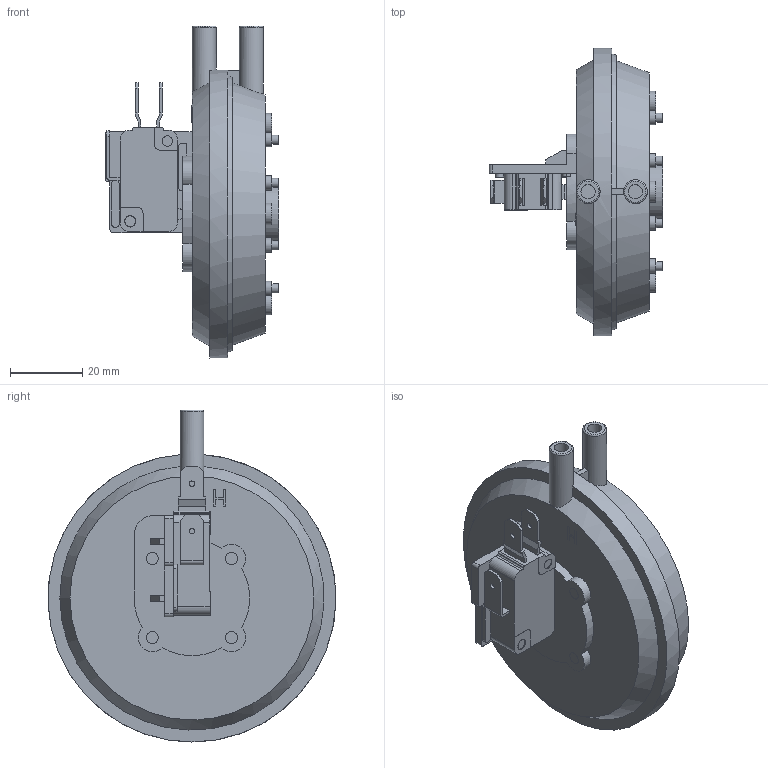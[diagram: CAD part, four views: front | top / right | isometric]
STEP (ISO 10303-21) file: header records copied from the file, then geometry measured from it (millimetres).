
FILE_DESCRIPTION((''),'2;1');
FILE_NAME('G:\DRAWINGS\SWITCH\INVENTOR DRAWINGS\GOLDTECH\PS-160.stp','2012-03-02T08:40:30',('dale'),(''),'Autodesk Inventor 2009','Autodesk Inventor 2009','');
FILE_SCHEMA(('AUTOMOTIVE_DESIGN { 1 0 10303 214 1 1 1 1 }'));
Length unit declared in the file: inch
Products named in the file (1): Part2
Bounding box: 48.13 x 79.73 x 91.95 mm (x, y, z)
Volume: 94184 mm3; surface area: 20686.9 mm2
Topology: 2 solids, 2 shells, 324 faces, 917 edges, 644 vertices
Faces by surface type: plane 191, cylinder 78, bspline 46, cone 7, torus 2
Full cylindrical faces by diameter (mm): 1.524 x2, 2.388 x2, 2.54 x8, 2.896 x1, 3.988 x8, 5.969 x4, 6.604 x2, 12.827 x1, 15.494 x1, 24.714 x1, 79.756 x1
Entity records: 12291 total; most frequent: CARTESIAN_POINT 4021, ORIENTED_EDGE 1732, DIRECTION 1452, EDGE_CURVE 866, VERTEX_POINT 635, VECTOR 504, LINE 504, AXIS2_PLACEMENT_3D 474
